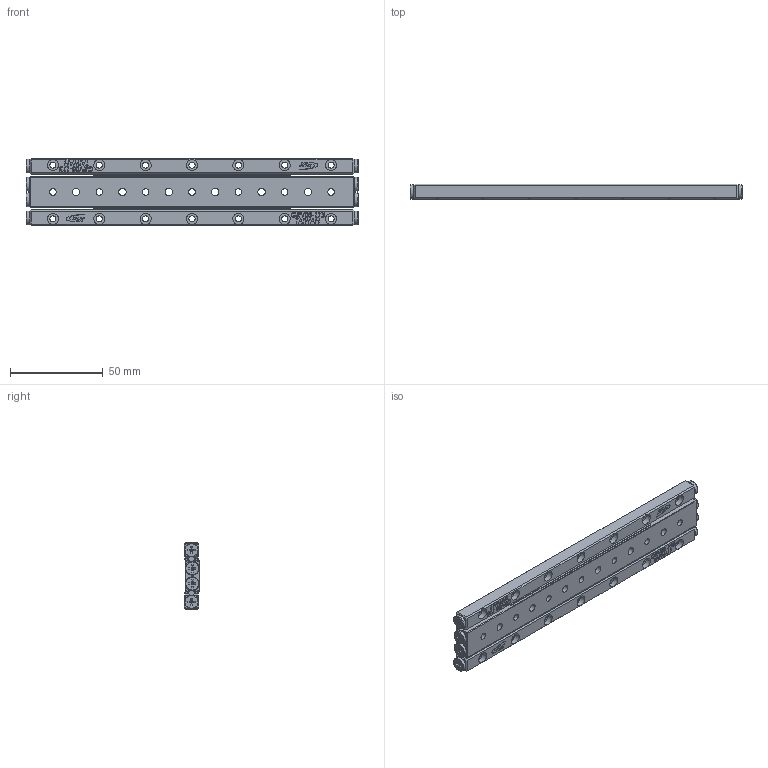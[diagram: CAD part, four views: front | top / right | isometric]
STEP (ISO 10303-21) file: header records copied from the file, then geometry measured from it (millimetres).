
FILE_DESCRIPTION (( 'STEP AP203' ), '1' );
FILE_NAME ('GRD03-175.STEP', '2023-11-01T02:41:11', ( '' ), ( '' ), 'SwSTEP 2.0', 'SolidWorks 2019', '' );
FILE_SCHEMA (( 'CONFIG_CONTROL_DESIGN' ));
Length unit declared in the file: millimetre
Products named in the file (4): GRVP03-175-模糊化保持器組; GRD03-175; GRV03-175-模糊化軌道; GRD03-175-模糊化中軌
Assembly tree (5 placements, depth 2):
  GRD03-175
    GRD03-175-模糊化中軌
    GRV03-175-模糊化軌道  x2
    GRVP03-175-模糊化保持器組  x2
Bounding box: 179 x 8.5 x 36 mm (x, y, z)
Volume: 43494.4 mm3; surface area: 29054.2 mm2
Topology: 5 solids, 5 shells, 1901 faces, 4677 edges, 3030 vertices
Faces by surface type: plane 1248, cylinder 310, bspline 171, torus 100, cone 72
Full cylindrical faces by diameter (mm): 3.3 x14, 3.5 x7, 4 x6, 6 x21, 7.5 x8
Entity records: 40295 total; most frequent: CARTESIAN_POINT 13753, ORIENTED_EDGE 5590, DIRECTION 4778, EDGE_CURVE 2795, LINE 1846, VECTOR 1846, VERTEX_POINT 1831, AXIS2_PLACEMENT_3D 1466
